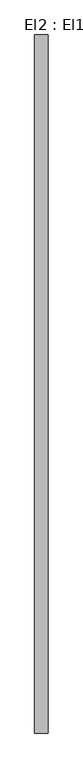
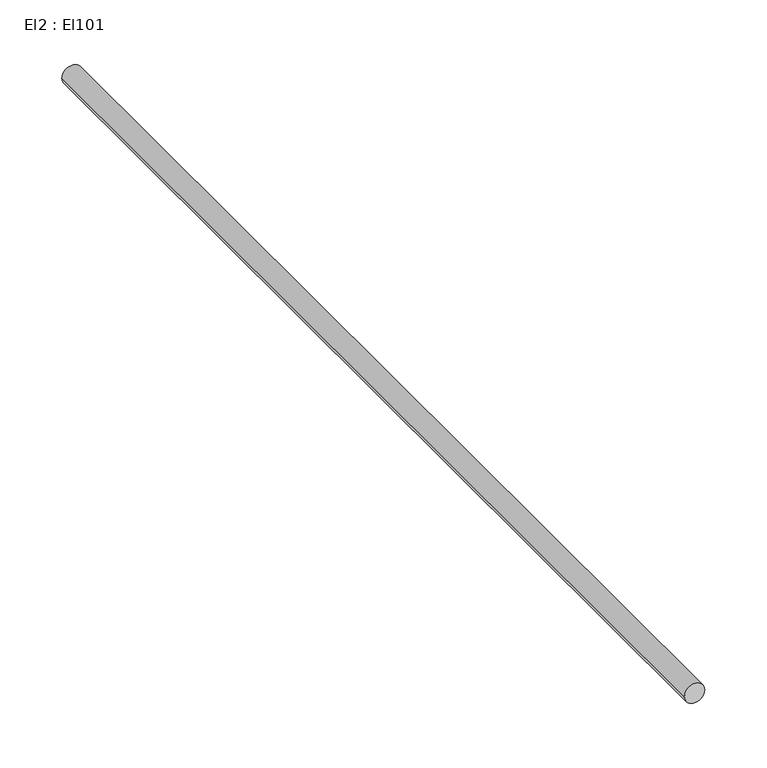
"""IFC4 building model written with IfcOpenShell, lengths in millimetres: cable carrier segment geometry, El2 : El101."""

from ifc_helpers import new_model, si_unit, point, frame, frame_2d, origin, place, context, project, spatial, circle_curve, trimmed, segment, composite_curve, outline, extrude, source, transform, mapped, element, save


def el2_el101_1b8d6740(model_context):
    return source(origin(), model_context, "Body", "SweptSolid", [
        extrude(outline(composite_curve([segment(trimmed(circle_curve(frame_2d((1800.0, 25144.4746511)), 9.5), [point((1800.0, 25134.9746511))], [point((1800.0, 25153.9746511))], False, "CARTESIAN"), True, "CONTINUOUS"), segment(trimmed(circle_curve(frame_2d((1800.0, 25144.4746511)), 9.5), [point((1800.0, 25153.9746511))], [point((1800.0, 25134.9746511))], False, "CARTESIAN"), True, "CONTINUOUS")], self_intersect=False)), frame((0.0, 8099.2291745, 0.0), z_axis=(0.0, 1.0, 0.0), x_axis=(0.0, 0.0, 1.0)), (0.0, 0.0, 1.0), 1005.77),
    ])


if __name__ == "__main__":
    model = new_model("IFC4")
    model_context = context("Model", 3, world=origin())
    ifc_project = project(units=[si_unit("LENGTHUNIT", "METRE", prefix="MILLI")], contexts=[model_context])
    site = spatial("IfcSite", under=ifc_project)
    building = spatial("IfcBuilding", under=site)
    placement = place(None, origin())
    el2_el101_shape = el2_el101_1b8d6740(model_context)
    element("IfcCableCarrierSegment", 1, ObjectType="El2 : El101", at=placement, inside=building, context=model_context, shape_type="MappedRepresentation", body=[
        mapped(el2_el101_shape, transform((0.0, 0.0, 0.0), x_axis=(1.0, 0.0, 0.0), y_axis=(0.0, 1.0, 0.0), z_axis=(0.0, 0.0, 1.0))),
    ])
    save(model, "model.ifc")
